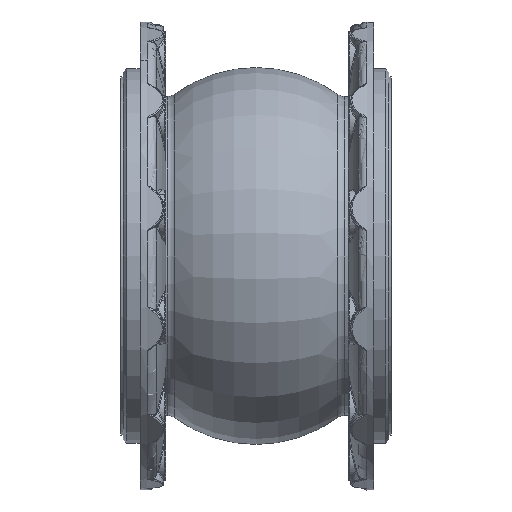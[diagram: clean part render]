
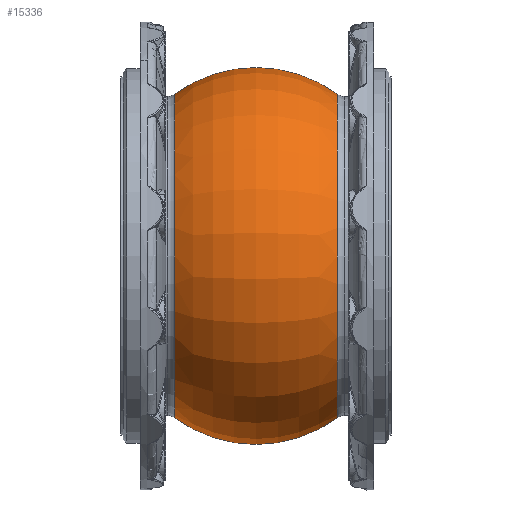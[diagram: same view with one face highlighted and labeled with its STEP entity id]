
A CAD part, left-side view. The second image highlights one B-rep face of the part: STEP entity #15336.
In plain terms, the highlighted toroidal (fillet/blend) face has major radius 44.325 mm and minor radius 118.76 mm.
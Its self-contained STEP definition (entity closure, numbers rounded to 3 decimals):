
#313 = AXIS2_PLACEMENT_3D ( 'NONE', #5520, #5672, #12075 ) ;
#3117 = EDGE_CURVE ( 'NONE', #22794, #18862, #9375, .T. ) ;
#3333 = FACE_OUTER_BOUND ( 'NONE', #4713, .T. ) ;
#4218 = CARTESIAN_POINT ( 'NONE',  ( 0., 115., -44.325 ) ) ;
#4355 = DIRECTION ( 'NONE',  ( 0., 0., 1. ) ) ;
#4356 = DIRECTION ( 'NONE',  ( 0., 0., -1. ) ) ;
#4713 = EDGE_LOOP ( 'NONE', ( #11384, #12363, #8026, #21943 ) ) ;
#5398 = AXIS2_PLACEMENT_3D ( 'NONE', #15145, #12970, #4356 ) ;
#5520 = CARTESIAN_POINT ( 'NONE',  ( 0., 115., 0. ) ) ;
#5672 = DIRECTION ( 'NONE',  ( 0., -1., 0. ) ) ;
#7315 = CARTESIAN_POINT ( 'NONE',  ( 0., 185.429, 0. ) ) ;
#7786 = AXIS2_PLACEMENT_3D ( 'NONE', #4218, #28675, #4355 ) ;
#7848 = VERTEX_POINT ( 'NONE', #13303 ) ;
#8026 = ORIENTED_EDGE ( 'NONE', *, *, #12220, .T. ) ;
#9375 = CIRCLE ( 'NONE', #18691, 118.76 ) ;
#11103 = CARTESIAN_POINT ( 'NONE',  ( 0., 44.571, 139.948 ) ) ;
#11384 = ORIENTED_EDGE ( 'NONE', *, *, #3117, .F. ) ;
#12075 = DIRECTION ( 'NONE',  ( 0., 0., -1. ) ) ;
#12220 = EDGE_CURVE ( 'NONE', #19302, #7848, #24481, .T. ) ;
#12363 = ORIENTED_EDGE ( 'NONE', *, *, #20475, .T. ) ;
#12970 = DIRECTION ( 'NONE',  ( 0., -1., 0. ) ) ;
#13303 = CARTESIAN_POINT ( 'NONE',  ( 0., 44.571, -139.948 ) ) ;
#13670 = DIRECTION ( 'NONE',  ( 0., 0., -1. ) ) ;
#14228 = CIRCLE ( 'NONE', #5398, 139.948 ) ;
#14250 = TOROIDAL_SURFACE ( 'NONE', #313, 44.325, 118.76 ) ;
#15137 = EDGE_CURVE ( 'NONE', #18862, #7848, #14228, .T. ) ;
#15145 = CARTESIAN_POINT ( 'NONE',  ( 0., 44.571, 0. ) ) ;
#15336 = ADVANCED_FACE ( 'NONE', ( #3333 ), #14250, .T. ) ;
#18691 = AXIS2_PLACEMENT_3D ( 'NONE', #26766, #22394, #13670 ) ;
#18862 = VERTEX_POINT ( 'NONE', #11103 ) ;
#18939 = AXIS2_PLACEMENT_3D ( 'NONE', #7315, #22444, #20124 ) ;
#19171 = CARTESIAN_POINT ( 'NONE',  ( 0., 185.429, 139.948 ) ) ;
#19302 = VERTEX_POINT ( 'NONE', #24510 ) ;
#19865 = CIRCLE ( 'NONE', #18939, 139.948 ) ;
#20124 = DIRECTION ( 'NONE',  ( 0., 0., -1. ) ) ;
#20475 = EDGE_CURVE ( 'NONE', #22794, #19302, #19865, .T. ) ;
#21943 = ORIENTED_EDGE ( 'NONE', *, *, #15137, .F. ) ;
#22394 = DIRECTION ( 'NONE',  ( 1., 0., 0. ) ) ;
#22444 = DIRECTION ( 'NONE',  ( 0., -1., 0. ) ) ;
#22794 = VERTEX_POINT ( 'NONE', #19171 ) ;
#24481 = CIRCLE ( 'NONE', #7786, 118.76 ) ;
#24510 = CARTESIAN_POINT ( 'NONE',  ( 0., 185.429, -139.948 ) ) ;
#26766 = CARTESIAN_POINT ( 'NONE',  ( 0., 115., 44.325 ) ) ;
#28675 = DIRECTION ( 'NONE',  ( -1., 0., 0. ) ) ;
